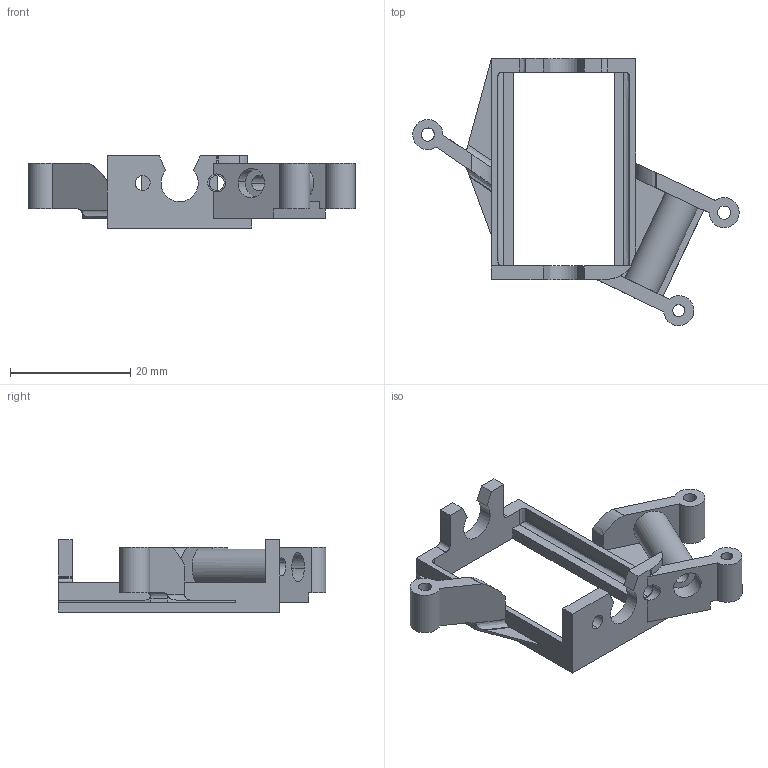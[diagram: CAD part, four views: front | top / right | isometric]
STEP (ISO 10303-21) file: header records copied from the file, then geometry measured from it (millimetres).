
FILE_DESCRIPTION(('Open CASCADE Model'),'2;1');
FILE_NAME('Open CASCADE Shape Model','2026-10-28T14:34:11',('Author'),( 'Open CASCADE'),'Open CASCADE STEP processor 7.9','Open CASCADE 7.9' ,'Unknown');
FILE_SCHEMA(('AUTOMOTIVE_DESIGN { 1 0 10303 214 1 1 1 1 }'));
Length unit declared in the file: millimetre
Products named in the file (1): Open CASCADE STEP translator 7.9 2
Bounding box: 54.26 x 44.43 x 12 mm (x, y, z)
Volume: 3281.4 mm3; surface area: 4303.1 mm2
Topology: 1 solids, 1 shells, 239 faces, 527 edges, 290 vertices
Faces by surface type: plane 150, bspline 50, cylinder 25, extrusion 14
Entity records: 24564 total; most frequent: CARTESIAN_POINT 15782, ORIENTED_EDGE 1054, PCURVE 1054, DEFINITIONAL_REPRESENTATION 1054, B_SPLINE_CURVE_WITH_KNOTS 1015, DIRECTION 969, EDGE_CURVE 527, SURFACE_CURVE 527
